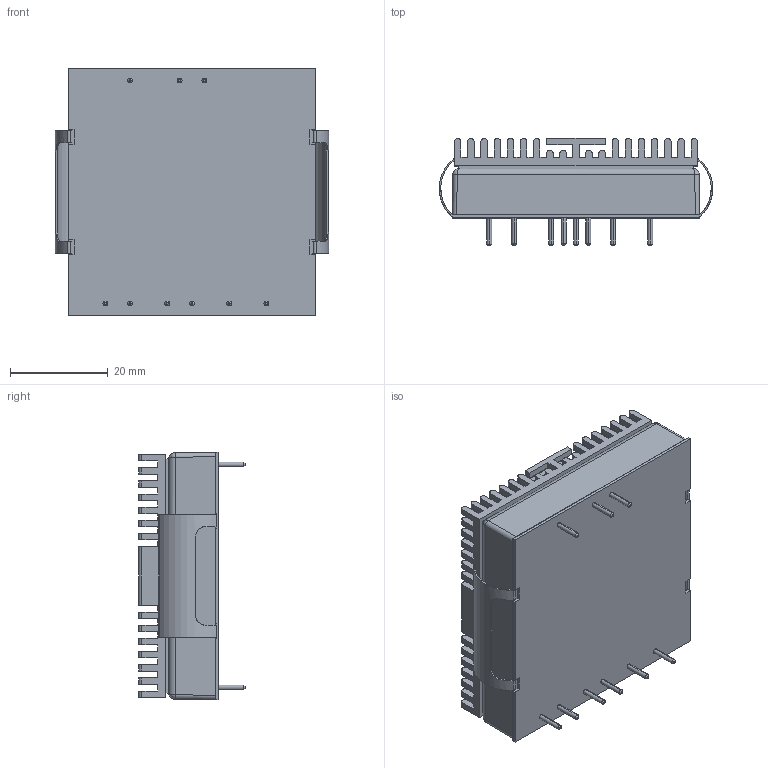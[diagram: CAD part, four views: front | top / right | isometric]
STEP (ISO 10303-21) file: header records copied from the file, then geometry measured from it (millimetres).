
FILE_DESCRIPTION (( 'STEP AP214' ), '1' );
FILE_NAME ('TEN 40-HS.STEP', '2018-11-01T05:12:06', ( 'user' ), ( '' ), 'SwSTEP 2.0', 'SolidWorks 2016', '' );
FILE_SCHEMA (( 'AUTOMOTIVE_DESIGN' ));
Length unit declared in the file: millimetre
Products named in the file (5): TEN 40-HS; Clamp; Heatsink; Heatfilm; Converter
Assembly tree (5 placements, depth 2):
  TEN 40-HS
    Converter
    Heatfilm
    Heatsink
    Clamp  x2
Bounding box: 56.09 x 21.9 x 50.8 mm (x, y, z)
Volume: 34456.4 mm3; surface area: 25474.9 mm2
Topology: 5 solids, 5 shells, 1596 faces, 4046 edges, 2674 vertices
Faces by surface type: plane 1246, cylinder 320, cone 18, bspline 12
Entity records: 64034 total; most frequent: CARTESIAN_POINT 8600, ORIENTED_EDGE 7856, DIRECTION 7642, EDGE_CURVE 3928, LINE 3282, VECTOR 3282, VERTEX_POINT 2602, AXIS2_PLACEMENT_3D 2180
